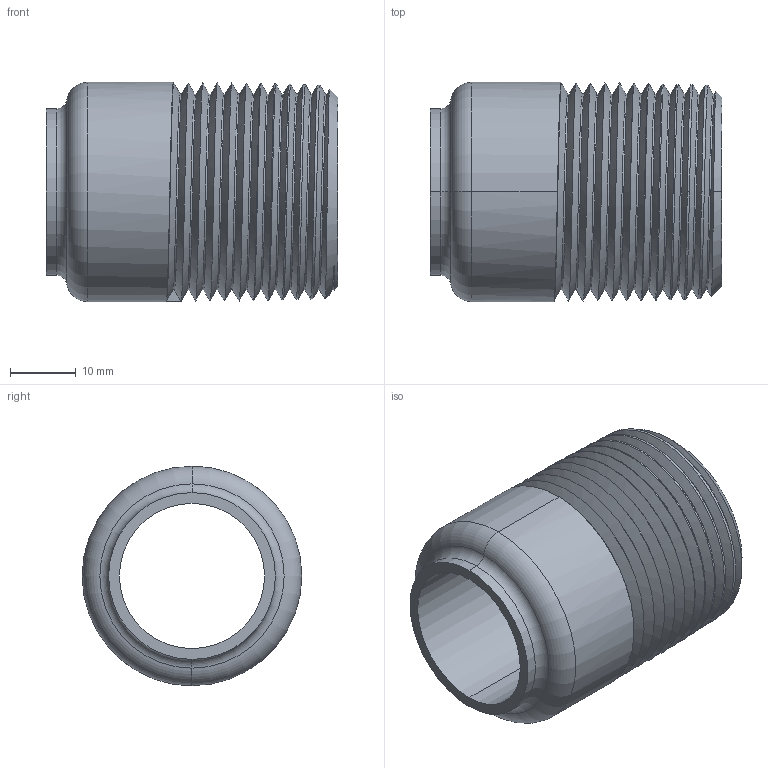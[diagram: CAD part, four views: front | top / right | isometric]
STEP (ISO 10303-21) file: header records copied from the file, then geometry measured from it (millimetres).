
FILE_DESCRIPTION (( 'STEP AP214' ), '1' );
FILE_NAME ('19WB 1.0 REV1.STEP', '2025-06-25T15:47:31', ( '' ), ( '' ), 'SwSTEP 2.0', 'SolidWorks 2022', '' );
FILE_SCHEMA (( 'AUTOMOTIVE_DESIGN' ));
Length unit declared in the file: inch
Products named in the file (1): 19WB 1.0 REV1
Bounding box: 44.45 x 33.4 x 33.4 mm (x, y, z)
Volume: 17689.4 mm3; surface area: 9961.8 mm2
Topology: 1 solids, 1 shells, 35 faces, 88 edges, 55 vertices
Faces by surface type: cone 18, cylinder 6, torus 4, bspline 4, plane 3
Entity records: 4406 total; most frequent: CARTESIAN_POINT 3601, ORIENTED_EDGE 176, DIRECTION 137, EDGE_CURVE 88, VERTEX_POINT 55, AXIS2_PLACEMENT_3D 54, EDGE_LOOP 37, FACE_OUTER_BOUND 35
